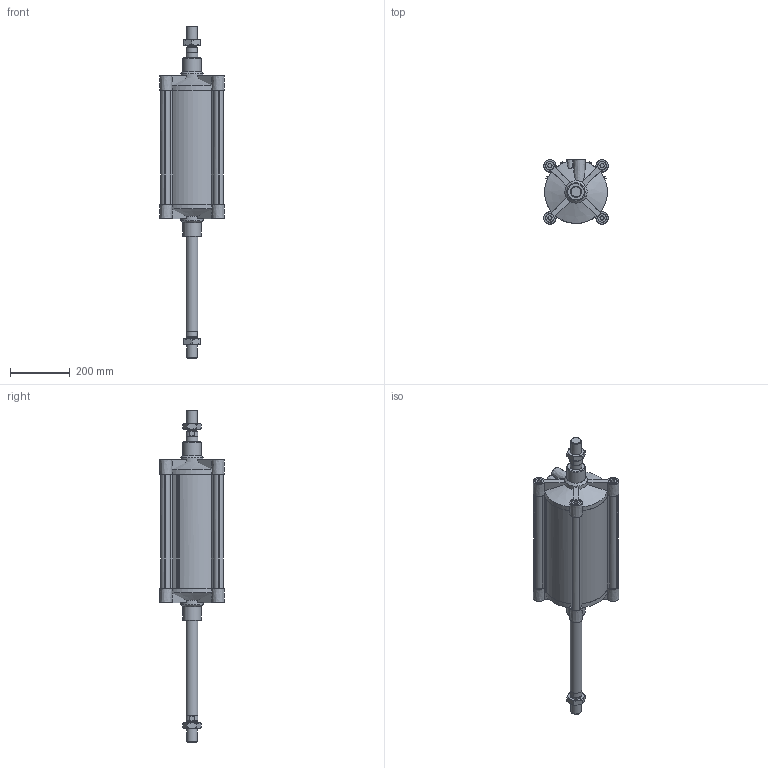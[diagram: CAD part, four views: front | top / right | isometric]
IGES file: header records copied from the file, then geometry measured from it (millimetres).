
Global section: file name: 139#_200_0300_02; native system: Autodesk Inventor 2014; preprocessor: unknown; author: F. Piloni; organization: Pneumax S.p.A.; date: 20151120.143227; units: millimetre
Bounding box: 216 x 216 x 1114 mm (x, y, z)
Volume: 8846516.5 mm3; surface area: 1345721.1 mm2
Topology: 6 solids, 6 shells, 324 faces, 844 edges, 567 vertices
Faces by surface type: bspline 324
